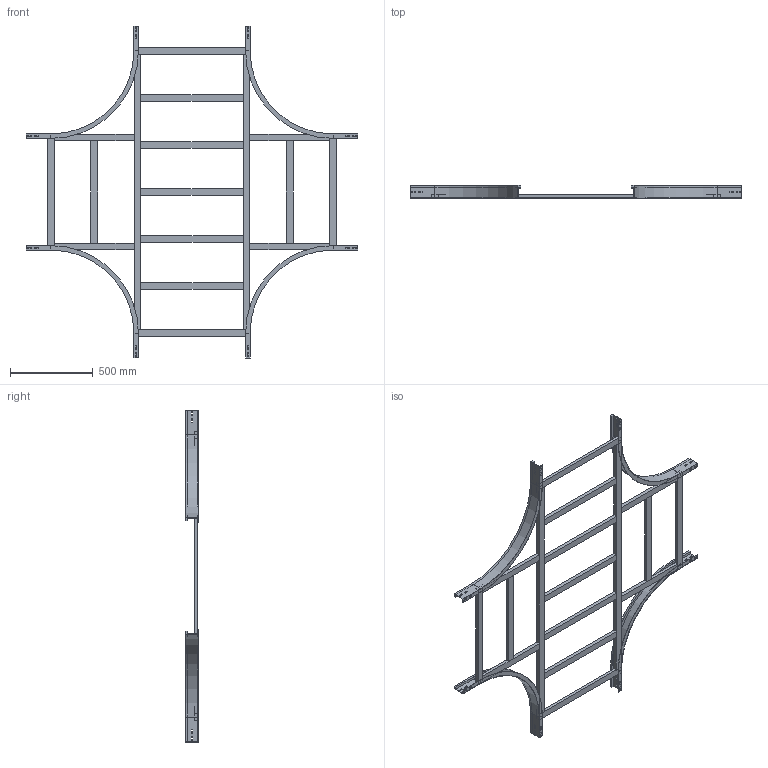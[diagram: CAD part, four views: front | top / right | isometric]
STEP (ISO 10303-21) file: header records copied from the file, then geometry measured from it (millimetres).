
FILE_DESCRIPTION (( 'STEP AP214' ), '1' );
FILE_NAME ('17B5C700.step', '2025-02-21T15:58:11', ( '' ), ( '' ), 'SwSTEP 2.0', 'SolidWorks 2023', '' );
FILE_SCHEMA (( 'AUTOMOTIVE_DESIGN' ));
Length unit declared in the file: millimetre
Products named in the file (7): LONGH.INTERNO 90°_H75_R500; TRAVERSINO_VERT_R500; 17B5C700; TRAVERSINO_700; TRAVERSINO_LONG._R500+700; TRAVERSINO_COPPIA_700; TRAVERSINO_INTERMEDIO_R500+700
Assembly tree (21 placements, depth 2):
  17B5C700
    LONGH.INTERNO 90°_H75_R500  x4
    TRAVERSINO_700  x4
    TRAVERSINO_LONG._R500+700  x2
    TRAVERSINO_INTERMEDIO_R500+700  x5
    TRAVERSINO_VERT_R500  x4
    TRAVERSINO_COPPIA_700  x2
Bounding box: 2000 x 75 x 2000 mm (x, y, z)
Volume: 11700959.8 mm3; surface area: 2550736.9 mm2
Topology: 21 solids, 21 shells, 334 faces, 812 edges, 520 vertices
Faces by surface type: plane 318, cylinder 16
Entity records: 2868 total; most frequent: CARTESIAN_POINT 460, DIRECTION 444, ORIENTED_EDGE 424, EDGE_CURVE 212, LINE 204, VECTOR 204, VERTEX_POINT 136, AXIS2_PLACEMENT_3D 120
